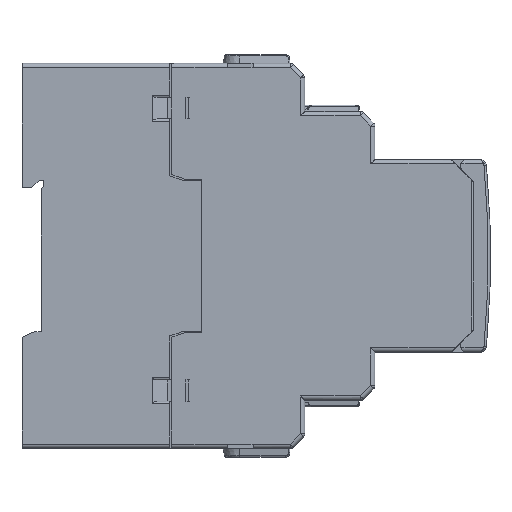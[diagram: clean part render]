
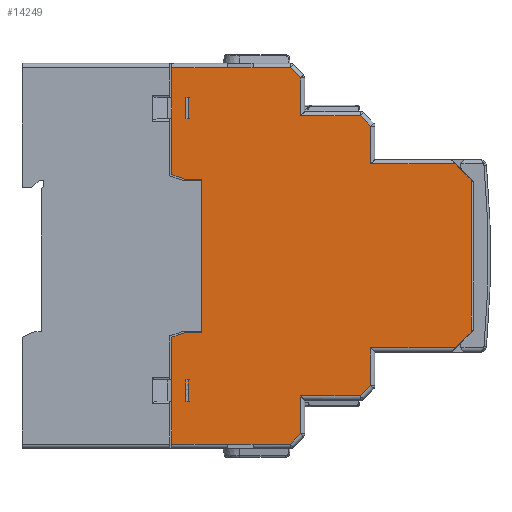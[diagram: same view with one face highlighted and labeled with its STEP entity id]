
A CAD part, top view. The second image highlights one B-rep face of the part: STEP entity #14249.
In plain terms, the highlighted planar face has unit normal (0, 0, 1).
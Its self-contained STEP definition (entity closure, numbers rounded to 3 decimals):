
#1069=FACE_OUTER_BOUND($,#1832,.T.);
#1832=EDGE_LOOP($,(#11850,#11851,#11852,#11853,#11854,#11855,#11856,#11857,
#11858,#11859,#11860,#11861,#11862,#11863,#11864,#11865,#11866,#11867,#11868,
#11869,#11870,#11871,#11872,#11873,#11874,#11875,#11876,#11877));
#2819=LINE($,#21970,#4279);
#2835=LINE($,#22006,#4295);
#3001=LINE($,#22588,#4461);
#3017=LINE($,#22639,#4477);
#3244=LINE($,#23429,#4704);
#3245=LINE($,#23431,#4705);
#3246=LINE($,#23433,#4706);
#3247=LINE($,#23435,#4707);
#3248=LINE($,#23437,#4708);
#3249=LINE($,#23439,#4709);
#3250=LINE($,#23441,#4710);
#3251=LINE($,#23443,#4711);
#3252=LINE($,#23445,#4712);
#3253=LINE($,#23447,#4713);
#3254=LINE($,#23449,#4714);
#3255=LINE($,#23451,#4715);
#3256=LINE($,#23453,#4716);
#3257=LINE($,#23455,#4717);
#3258=LINE($,#23457,#4718);
#3259=LINE($,#23459,#4719);
#3260=LINE($,#23460,#4720);
#3261=LINE($,#23461,#4721);
#3262=LINE($,#23463,#4722);
#3263=LINE($,#23465,#4723);
#3264=LINE($,#23467,#4724);
#3265=LINE($,#23469,#4725);
#3266=LINE($,#23470,#4726);
#3267=LINE($,#23471,#4727);
#4279=VECTOR($,#17631,6.);
#4295=VECTOR($,#17653,6.);
#4461=VECTOR($,#18115,25.);
#4477=VECTOR($,#18163,25.);
#4704=VECTOR($,#18656,8.686);
#4705=VECTOR($,#18657,3.414);
#4706=VECTOR($,#18658,8.836);
#4707=VECTOR($,#18659,13.986);
#4708=VECTOR($,#18660,3.414);
#4709=VECTOR($,#18661,8.836);
#4710=VECTOR($,#18662,19.8);
#4711=VECTOR($,#18663,5.233);
#4712=VECTOR($,#18664,35.6);
#4713=VECTOR($,#18665,5.233);
#4714=VECTOR($,#18666,19.8);
#4715=VECTOR($,#18667,8.836);
#4716=VECTOR($,#18668,3.414);
#4717=VECTOR($,#18669,13.986);
#4718=VECTOR($,#18670,8.836);
#4719=VECTOR($,#18671,3.414);
#4720=VECTOR($,#18672,8.686);
#4721=VECTOR($,#18673,13.);
#4722=VECTOR($,#18674,3.178);
#4723=VECTOR($,#18675,4.);
#4724=VECTOR($,#18676,35.9);
#4725=VECTOR($,#18677,4.);
#4726=VECTOR($,#18678,3.178);
#4727=VECTOR($,#18679,13.);
#6334=VERTEX_POINT($,#21964);
#6336=VERTEX_POINT($,#21968);
#6351=VERTEX_POINT($,#22002);
#6353=VERTEX_POINT($,#22005);
#6556=VERTEX_POINT($,#22576);
#6561=VERTEX_POINT($,#22586);
#6579=VERTEX_POINT($,#22636);
#6580=VERTEX_POINT($,#22638);
#6854=VERTEX_POINT($,#23428);
#6855=VERTEX_POINT($,#23430);
#6856=VERTEX_POINT($,#23432);
#6857=VERTEX_POINT($,#23434);
#6858=VERTEX_POINT($,#23436);
#6859=VERTEX_POINT($,#23438);
#6860=VERTEX_POINT($,#23440);
#6861=VERTEX_POINT($,#23442);
#6862=VERTEX_POINT($,#23444);
#6863=VERTEX_POINT($,#23446);
#6864=VERTEX_POINT($,#23448);
#6865=VERTEX_POINT($,#23450);
#6866=VERTEX_POINT($,#23452);
#6867=VERTEX_POINT($,#23454);
#6868=VERTEX_POINT($,#23456);
#6869=VERTEX_POINT($,#23458);
#6870=VERTEX_POINT($,#23462);
#6871=VERTEX_POINT($,#23464);
#6872=VERTEX_POINT($,#23466);
#6873=VERTEX_POINT($,#23468);
#8132=EDGE_CURVE($,#6334,#6336,#2819,.T.);
#8148=EDGE_CURVE($,#6353,#6351,#2835,.T.);
#8407=EDGE_CURVE($,#6556,#6561,#3001,.T.);
#8431=EDGE_CURVE($,#6580,#6579,#3017,.T.);
#8779=EDGE_CURVE($,#6351,#6854,#3244,.T.);
#8780=EDGE_CURVE($,#6854,#6855,#3245,.T.);
#8781=EDGE_CURVE($,#6855,#6856,#3246,.T.);
#8782=EDGE_CURVE($,#6856,#6857,#3247,.T.);
#8783=EDGE_CURVE($,#6857,#6858,#3248,.T.);
#8784=EDGE_CURVE($,#6858,#6859,#3249,.T.);
#8785=EDGE_CURVE($,#6859,#6860,#3250,.T.);
#8786=EDGE_CURVE($,#6860,#6861,#3251,.T.);
#8787=EDGE_CURVE($,#6861,#6862,#3252,.T.);
#8788=EDGE_CURVE($,#6863,#6862,#3253,.T.);
#8789=EDGE_CURVE($,#6863,#6864,#3254,.T.);
#8790=EDGE_CURVE($,#6864,#6865,#3255,.T.);
#8791=EDGE_CURVE($,#6865,#6866,#3256,.T.);
#8792=EDGE_CURVE($,#6866,#6867,#3257,.T.);
#8793=EDGE_CURVE($,#6867,#6868,#3258,.T.);
#8794=EDGE_CURVE($,#6868,#6869,#3259,.T.);
#8795=EDGE_CURVE($,#6869,#6334,#3260,.T.);
#8796=EDGE_CURVE($,#6336,#6556,#3261,.T.);
#8797=EDGE_CURVE($,#6870,#6561,#3262,.T.);
#8798=EDGE_CURVE($,#6871,#6870,#3263,.T.);
#8799=EDGE_CURVE($,#6872,#6871,#3264,.T.);
#8800=EDGE_CURVE($,#6873,#6872,#3265,.T.);
#8801=EDGE_CURVE($,#6580,#6873,#3266,.T.);
#8802=EDGE_CURVE($,#6579,#6353,#3267,.T.);
#11850=ORIENTED_EDGE($,*,*,#8779,.T.);
#11851=ORIENTED_EDGE($,*,*,#8780,.T.);
#11852=ORIENTED_EDGE($,*,*,#8781,.T.);
#11853=ORIENTED_EDGE($,*,*,#8782,.T.);
#11854=ORIENTED_EDGE($,*,*,#8783,.T.);
#11855=ORIENTED_EDGE($,*,*,#8784,.T.);
#11856=ORIENTED_EDGE($,*,*,#8785,.T.);
#11857=ORIENTED_EDGE($,*,*,#8786,.T.);
#11858=ORIENTED_EDGE($,*,*,#8787,.T.);
#11859=ORIENTED_EDGE($,*,*,#8788,.F.);
#11860=ORIENTED_EDGE($,*,*,#8789,.T.);
#11861=ORIENTED_EDGE($,*,*,#8790,.T.);
#11862=ORIENTED_EDGE($,*,*,#8791,.T.);
#11863=ORIENTED_EDGE($,*,*,#8792,.T.);
#11864=ORIENTED_EDGE($,*,*,#8793,.T.);
#11865=ORIENTED_EDGE($,*,*,#8794,.T.);
#11866=ORIENTED_EDGE($,*,*,#8795,.T.);
#11867=ORIENTED_EDGE($,*,*,#8132,.T.);
#11868=ORIENTED_EDGE($,*,*,#8796,.T.);
#11869=ORIENTED_EDGE($,*,*,#8407,.T.);
#11870=ORIENTED_EDGE($,*,*,#8797,.F.);
#11871=ORIENTED_EDGE($,*,*,#8798,.F.);
#11872=ORIENTED_EDGE($,*,*,#8799,.F.);
#11873=ORIENTED_EDGE($,*,*,#8800,.F.);
#11874=ORIENTED_EDGE($,*,*,#8801,.F.);
#11875=ORIENTED_EDGE($,*,*,#8431,.T.);
#11876=ORIENTED_EDGE($,*,*,#8802,.T.);
#11877=ORIENTED_EDGE($,*,*,#8148,.T.);
#13760=PLANE($,#15388);
#14249=ADVANCED_FACE($,(#1069),#13760,.F.);
#15388=AXIS2_PLACEMENT_3D($,#23427,#18654,#18655);
#17631=DIRECTION($,(-1.,0.,0.));
#17653=DIRECTION($,(1.,0.,0.));
#18115=DIRECTION($,(0.,-1.,0.));
#18163=DIRECTION($,(0.,-1.,0.));
#18654=DIRECTION('center_axis',(0.,0.,-1.));
#18655=DIRECTION('ref_axis',(-1.,0.,0.));
#18656=DIRECTION($,(1.,0.,0.));
#18657=DIRECTION($,(0.707,0.707,0.));
#18658=DIRECTION($,(0.,1.,0.));
#18659=DIRECTION($,(1.,0.,0.));
#18660=DIRECTION($,(0.707,0.707,0.));
#18661=DIRECTION($,(0.,1.,0.));
#18662=DIRECTION($,(1.,0.,0.));
#18663=DIRECTION($,(0.707,0.707,0.));
#18664=DIRECTION($,(0.,1.,0.));
#18665=DIRECTION($,(0.707,-0.707,0.));
#18666=DIRECTION($,(-1.,0.,0.));
#18667=DIRECTION($,(0.,1.,0.));
#18668=DIRECTION($,(-0.707,0.707,0.));
#18669=DIRECTION($,(-1.,0.,0.));
#18670=DIRECTION($,(0.,1.,0.));
#18671=DIRECTION($,(-0.707,0.707,0.));
#18672=DIRECTION($,(-1.,0.,0.));
#18673=DIRECTION($,(-1.,0.,0.));
#18674=DIRECTION($,(-0.944,0.33,0.));
#18675=DIRECTION($,(-1.,0.,0.));
#18676=DIRECTION($,(0.,1.,0.));
#18677=DIRECTION($,(1.,0.,0.));
#18678=DIRECTION($,(0.944,0.33,0.));
#18679=DIRECTION($,(1.,0.,0.));
#21964=CARTESIAN_POINT('',(54.,44.,18.));
#21968=CARTESIAN_POINT('',(48.,44.,18.));
#21970=CARTESIAN_POINT($,(54.,44.,18.));
#22002=CARTESIAN_POINT('',(54.,-44.,18.));
#22005=CARTESIAN_POINT('',(48.,-44.,18.));
#22006=CARTESIAN_POINT($,(48.,-44.,18.));
#22576=CARTESIAN_POINT('',(35.,44.,18.));
#22586=CARTESIAN_POINT('',(35.,19.,18.));
#22588=CARTESIAN_POINT($,(35.,-45.,18.));
#22636=CARTESIAN_POINT('',(35.,-44.,18.));
#22638=CARTESIAN_POINT('',(35.,-19.,18.));
#22639=CARTESIAN_POINT($,(35.,-45.,18.));
#23427=CARTESIAN_POINT('Origin',(66.1,45.,18.));
#23428=CARTESIAN_POINT('',(62.686,-44.,18.));
#23429=CARTESIAN_POINT($,(66.1,-44.,18.));
#23430=CARTESIAN_POINT('',(65.1,-41.586,18.));
#23431=CARTESIAN_POINT($,(65.393,-41.293,18.));
#23432=CARTESIAN_POINT('',(65.1,-32.75,18.));
#23433=CARTESIAN_POINT($,(65.1,45.,18.));
#23434=CARTESIAN_POINT('',(79.086,-32.75,18.));
#23435=CARTESIAN_POINT($,(66.1,-32.75,18.));
#23436=CARTESIAN_POINT('',(81.5,-30.336,18.));
#23437=CARTESIAN_POINT($,(81.793,-30.043,18.));
#23438=CARTESIAN_POINT('',(81.5,-21.5,18.));
#23439=CARTESIAN_POINT($,(81.5,45.,18.));
#23440=CARTESIAN_POINT('',(101.3,-21.5,18.));
#23441=CARTESIAN_POINT($,(66.1,-21.5,18.));
#23442=CARTESIAN_POINT('',(105.,-17.8,18.));
#23443=CARTESIAN_POINT($,(100.3,-22.5,18.));
#23444=CARTESIAN_POINT('',(105.,17.8,18.));
#23445=CARTESIAN_POINT($,(105.,45.,18.));
#23446=CARTESIAN_POINT('',(101.3,21.5,18.));
#23447=CARTESIAN_POINT($,(100.3,22.5,18.));
#23448=CARTESIAN_POINT('',(81.5,21.5,18.));
#23449=CARTESIAN_POINT($,(66.1,21.5,18.));
#23450=CARTESIAN_POINT('',(81.5,30.336,18.));
#23451=CARTESIAN_POINT($,(81.5,45.,18.));
#23452=CARTESIAN_POINT('',(79.086,32.75,18.));
#23453=CARTESIAN_POINT($,(78.793,33.043,18.));
#23454=CARTESIAN_POINT('',(65.1,32.75,18.));
#23455=CARTESIAN_POINT($,(66.1,32.75,18.));
#23456=CARTESIAN_POINT('',(65.1,41.586,18.));
#23457=CARTESIAN_POINT($,(65.1,45.,18.));
#23458=CARTESIAN_POINT('',(62.686,44.,18.));
#23459=CARTESIAN_POINT($,(62.393,44.293,18.));
#23460=CARTESIAN_POINT($,(66.1,44.,18.));
#23461=CARTESIAN_POINT($,(66.1,44.,18.));
#23462=CARTESIAN_POINT('',(38.,17.95,18.));
#23463=CARTESIAN_POINT($,(35.,19.,18.));
#23464=CARTESIAN_POINT('',(42.,17.95,18.));
#23465=CARTESIAN_POINT($,(38.,17.95,18.));
#23466=CARTESIAN_POINT('',(42.,-17.95,18.));
#23467=CARTESIAN_POINT($,(42.,-19.068,18.));
#23468=CARTESIAN_POINT('',(38.,-17.95,18.));
#23469=CARTESIAN_POINT($,(38.,-17.95,18.));
#23470=CARTESIAN_POINT($,(35.,-19.,18.));
#23471=CARTESIAN_POINT($,(66.1,-44.,18.));
